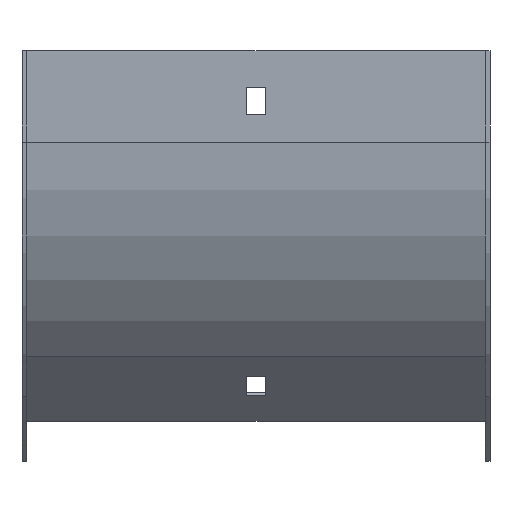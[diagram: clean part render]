
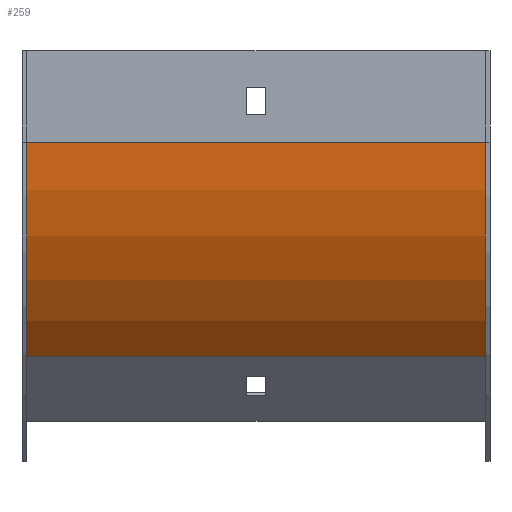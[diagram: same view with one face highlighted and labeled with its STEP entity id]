
A CAD part, front view. The second image highlights one B-rep face of the part: STEP entity #259.
In plain terms, the highlighted cylindrical face has radius 100 mm (diameter 200 mm), a partial arc.
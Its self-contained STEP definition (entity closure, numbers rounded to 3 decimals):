
#9 = ORIENTED_EDGE ( 'NONE', *, *, #176, .T. ) ;
#15 = CARTESIAN_POINT ( 'NONE',  ( -75.5, 98.5, -30. ) ) ;
#53 = AXIS2_PLACEMENT_3D ( 'NONE', #210, #203, #399 ) ;
#67 = CARTESIAN_POINT ( 'NONE',  ( 77., 27.789, -100.711 ) ) ;
#80 = DIRECTION ( 'NONE',  ( 0., 0., -1. ) ) ;
#90 = CYLINDRICAL_SURFACE ( 'NONE', #549, 100. ) ;
#139 = VERTEX_POINT ( 'NONE', #170 ) ;
#145 = EDGE_LOOP ( 'NONE', ( #775, #350, #249, #9 ) ) ;
#168 = CARTESIAN_POINT ( 'NONE',  ( -75.5, 27.789, -100.711 ) ) ;
#170 = CARTESIAN_POINT ( 'NONE',  ( -75.5, -1.5, -30. ) ) ;
#176 = EDGE_CURVE ( 'NONE', #835, #139, #529, .T. ) ;
#179 = EDGE_CURVE ( 'NONE', #815, #295, #729, .T. ) ;
#197 = DIRECTION ( 'NONE',  ( -1., 0., 0. ) ) ;
#199 = VECTOR ( 'NONE', #542, 1000. ) ;
#203 = DIRECTION ( 'NONE',  ( -1., 0., 0. ) ) ;
#206 = EDGE_CURVE ( 'NONE', #815, #835, #286, .T. ) ;
#210 = CARTESIAN_POINT ( 'NONE',  ( 75.5, 98.5, -30. ) ) ;
#215 = DIRECTION ( 'NONE',  ( -1., 0., 0. ) ) ;
#230 = EDGE_CURVE ( 'NONE', #295, #139, #837, .T. ) ;
#249 = ORIENTED_EDGE ( 'NONE', *, *, #206, .T. ) ;
#259 = ADVANCED_FACE ( 'NONE', ( #814 ), #90, .T. ) ;
#286 = CIRCLE ( 'NONE', #53, 100. ) ;
#295 = VERTEX_POINT ( 'NONE', #168 ) ;
#345 = VECTOR ( 'NONE', #197, 1000. ) ;
#350 = ORIENTED_EDGE ( 'NONE', *, *, #179, .F. ) ;
#399 = DIRECTION ( 'NONE',  ( 0., 0., -1. ) ) ;
#410 = DIRECTION ( 'NONE',  ( 0., 0., 1. ) ) ;
#422 = CARTESIAN_POINT ( 'NONE',  ( 77., 98.5, -30. ) ) ;
#484 = DIRECTION ( 'NONE',  ( -1., 0., 0. ) ) ;
#529 = LINE ( 'NONE', #791, #345 ) ;
#542 = DIRECTION ( 'NONE',  ( -1., 0., 0. ) ) ;
#549 = AXIS2_PLACEMENT_3D ( 'NONE', #422, #215, #410 ) ;
#584 = CARTESIAN_POINT ( 'NONE',  ( 75.5, -1.5, -30. ) ) ;
#686 = AXIS2_PLACEMENT_3D ( 'NONE', #15, #484, #80 ) ;
#729 = LINE ( 'NONE', #67, #199 ) ;
#775 = ORIENTED_EDGE ( 'NONE', *, *, #230, .F. ) ;
#791 = CARTESIAN_POINT ( 'NONE',  ( 77., -1.5, -30. ) ) ;
#794 = CARTESIAN_POINT ( 'NONE',  ( 75.5, 27.789, -100.711 ) ) ;
#814 = FACE_OUTER_BOUND ( 'NONE', #145, .T. ) ;
#815 = VERTEX_POINT ( 'NONE', #794 ) ;
#835 = VERTEX_POINT ( 'NONE', #584 ) ;
#837 = CIRCLE ( 'NONE', #686, 100. ) ;
